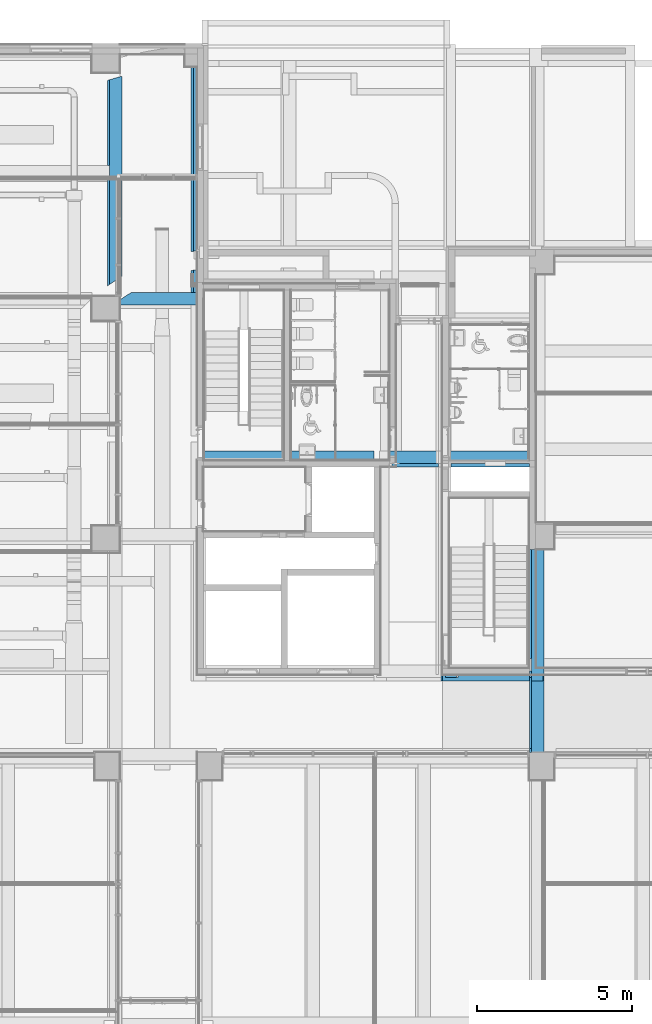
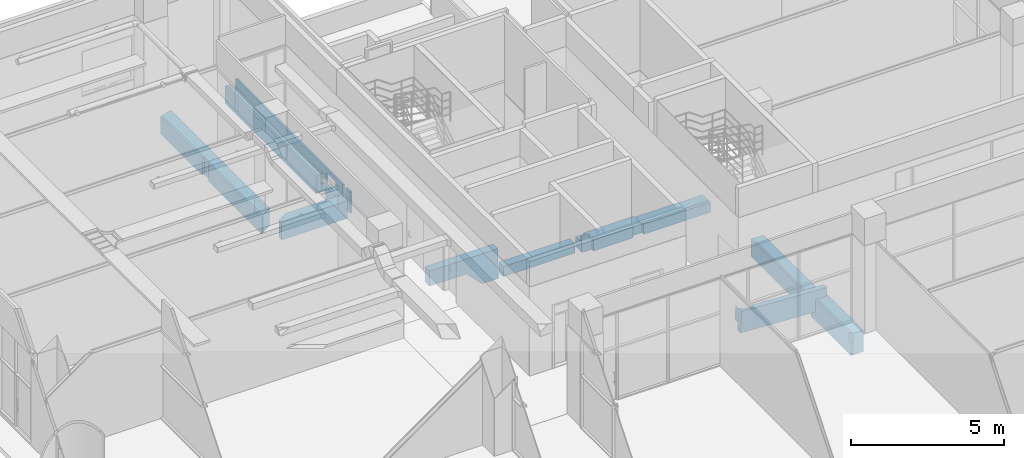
# One storey, part 58 of 100: 10 beams.
"""IFC2X3 building model written with IfcOpenShell, lengths in millimetres."""

from ifc_helpers import new_model, entity, si_unit, converted_unit, derived_unit, direction, frame, origin, place, context, subcontext, project, spatial, faceted_brep, source, transform, mapped, material, material_list, type_object, type_shapes, element, save


model = new_model("IFC2X3")

# Units and contexts
model_context = context("Model", 3, precision=0.01, world=origin(), true_north=direction((6.123031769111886e-17, 1.0)))
body_context = subcontext(model_context, "Body", "Model", "MODEL_VIEW")
ifc_project = project(units=[si_unit("LENGTHUNIT", "METRE", prefix="MILLI"), si_unit("AREAUNIT", "SQUARE_METRE"), si_unit("VOLUMEUNIT", "CUBIC_METRE"), converted_unit("PLANEANGLEUNIT", "DEGREE", entity("IfcRatioMeasure", 0.017453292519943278), si_unit("PLANEANGLEUNIT", "RADIAN"), dimensions=[0, 0, 0, 0, 0, 0, 0]), si_unit("MASSUNIT", "GRAM", prefix="KILO"), derived_unit("MASSDENSITYUNIT", [(si_unit("MASSUNIT", "GRAM", prefix="KILO"), 1), (si_unit("LENGTHUNIT", "METRE"), -3)]), derived_unit("MOMENTOFINERTIAUNIT", [(si_unit("LENGTHUNIT", "METRE"), 4)]), si_unit("TIMEUNIT", "SECOND"), si_unit("FREQUENCYUNIT", "HERTZ"), si_unit("THERMODYNAMICTEMPERATUREUNIT", "DEGREE_CELSIUS"), derived_unit("THERMALTRANSMITTANCEUNIT", [(si_unit("MASSUNIT", "GRAM", prefix="KILO"), 1), (si_unit("THERMODYNAMICTEMPERATUREUNIT", "KELVIN"), -1), (si_unit("TIMEUNIT", "SECOND"), -3)]), derived_unit("VOLUMETRICFLOWRATEUNIT", [(si_unit("LENGTHUNIT", "METRE"), 3), (si_unit("TIMEUNIT", "SECOND"), -1)]), derived_unit("MASSFLOWRATEUNIT", [(si_unit("MASSUNIT", "GRAM", prefix="KILO"), 1), (si_unit("TIMEUNIT", "SECOND"), -1)]), derived_unit("ROTATIONALFREQUENCYUNIT", [(si_unit("TIMEUNIT", "SECOND"), -1)]), si_unit("ELECTRICCURRENTUNIT", "AMPERE"), si_unit("ELECTRICVOLTAGEUNIT", "VOLT"), si_unit("POWERUNIT", "WATT"), si_unit("FORCEUNIT", "NEWTON", prefix="KILO"), si_unit("ILLUMINANCEUNIT", "LUX"), si_unit("LUMINOUSFLUXUNIT", "LUMEN"), si_unit("LUMINOUSINTENSITYUNIT", "CANDELA"), derived_unit("USERDEFINED", [(si_unit("MASSUNIT", "GRAM", prefix="KILO"), -1), (si_unit("LENGTHUNIT", "METRE"), -2), (si_unit("TIMEUNIT", "SECOND"), 3), (si_unit("LUMINOUSFLUXUNIT", "LUMEN"), 1)]), derived_unit("SOUNDPOWERUNIT", [(si_unit("MASSUNIT", "GRAM", prefix="KILO"), 1), (si_unit("LENGTHUNIT", "METRE"), 2), (si_unit("TIMEUNIT", "SECOND"), -3)]), derived_unit("SOUNDPRESSUREUNIT", [(si_unit("MASSUNIT", "GRAM", prefix="KILO"), 1), (si_unit("LENGTHUNIT", "METRE"), -1), (si_unit("TIMEUNIT", "SECOND"), -2)]), derived_unit("LINEARVELOCITYUNIT", [(si_unit("LENGTHUNIT", "METRE"), 1), (si_unit("TIMEUNIT", "SECOND"), -1)]), si_unit("PRESSUREUNIT", "PASCAL"), derived_unit("USERDEFINED", [(si_unit("LENGTHUNIT", "METRE"), -2), (si_unit("MASSUNIT", "GRAM", prefix="KILO"), 1), (si_unit("TIMEUNIT", "SECOND"), -2)]), derived_unit("LINEARFORCEUNIT", [(si_unit("MASSUNIT", "GRAM", prefix="KILO"), 1), (si_unit("LENGTHUNIT", "METRE"), 1), (si_unit("TIMEUNIT", "SECOND"), -2), (si_unit("LENGTHUNIT", "METRE"), -1)]), derived_unit("PLANARFORCEUNIT", [(si_unit("MASSUNIT", "GRAM", prefix="KILO"), 1), (si_unit("LENGTHUNIT", "METRE"), 1), (si_unit("TIMEUNIT", "SECOND"), -2), (si_unit("LENGTHUNIT", "METRE"), -2)])], contexts=[model_context])

# Site, building, storey
site_placement = place(None, frame((-14167.972527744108, -657.2125860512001, 0.0)))
site = spatial("IfcSite", under=ifc_project, at=site_placement, Name="Default", CompositionType="ELEMENT")
building_placement = place(site_placement, origin())
building = spatial("IfcBuilding", under=site, at=building_placement, Name="Sample Building", CompositionType="ELEMENT")
storey_placement = place(building_placement, origin())
storey = spatial("IfcBuildingStorey", under=building, at=storey_placement, Name="지상 1층", CompositionType="ELEMENT", Elevation=0.0)

# Beams
ifc_material_1 = material(Name="KBIMS-콘크리트")
beam_type_1 = type_object("IfcBeamType", Name="BM111-철근콘크리트구조 보:BM110-철근 콘크리트구조 보_400 x 850_B1-1G3", PredefinedType="NOTDEFINED")
beam_1_placement = place(storey_placement, frame((27566.39481352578, 27471.07711517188, -850.0)))
element("IfcBeam", 1, at=beam_1_placement, inside=storey, type_object=beam_type_1, material=ifc_material_1, Name="BM111-철근콘크리트구조 보:BM110-철근 콘크리트구조 보_400 x 850_B1-1G3", ObjectType="BM111-철근콘크리트구조 보:BM110-철근 콘크리트구조 보_400 x 850_B1-1G3", context=body_context, shape_type="Brep", body=[
    faceted_brep([(1.5952722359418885, 0.0, 700.0), (1.5952722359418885, 159.40162857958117, 700.0), (1.5952722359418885, 159.40162857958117, 0.0), (1.5952722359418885, 0.0, 0.0), (2376.8510489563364, 400.0, 0.0), (2301.551598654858, 400.0, 0.0), (367.9442186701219, 400.0, 0.0), (367.9442186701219, 400.0, 700.0), (2301.551598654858, 400.0, 700.0), (2376.8510489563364, 400.0, 700.0), (2499.7310009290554, 400.0, 700.0), (2499.7310009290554, 400.0, 0.0), (2499.7310009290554, 0.0, 0.0), (2299.731000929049, 0.0, 0.0), (39.11508758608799, 186.00523168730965, 0.0), (76.8510855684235, 212.2907055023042, 0.0), (220.91006124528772, 308.43121976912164, 0.0), (2299.731000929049, 0.0, 700.0), (2499.7310009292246, 0.0, 700.0), (2499.7310009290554, 86.13519282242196, 700.0), (220.91006124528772, 308.43121976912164, 700.0), (76.8510855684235, 212.2907055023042, 700.0), (39.11508758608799, 186.00523168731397, 700.0)], [[[0, 1, 2, 3]], [[4, 5, 6, 7, 8, 9, 10, 11]], [[12, 13, 3, 2, 14, 15, 16, 6, 5, 4, 11]], [[17, 0, 3, 13, 12, 18]], [[19, 10, 9, 8, 7, 20, 21, 22, 1, 0, 17, 18]], [[19, 18, 12, 11, 10]], [[1, 22, 14, 2]], [[14, 22, 21, 15]], [[20, 7, 6, 16]], [[20, 16, 15, 21]]]),
])
beam_type_2 = type_object("IfcBeamType", Name="BM111-철근콘크리트구조 보:BM110-철근 콘크리트구조 보_400 x 850_B1-1G4", PredefinedType="NOTDEFINED")
beam_2_placement = place(storey_placement, frame((40843.25459207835, 13057.212617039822, -1350.0), z_axis=(0.0, 0.0, 1.0), x_axis=(0.0, 1.0, 0.0)))
element("IfcBeam", 2, at=beam_2_placement, inside=storey, type_object=beam_type_2, material=ifc_material_1, Name="BM111-철근콘크리트구조 보:BM110-철근 콘크리트구조 보_400 x 850_B1-1G4", ObjectType="BM111-철근콘크리트구조 보:BM110-철근 콘크리트구조 보_400 x 850_B1-1G4", context=body_context, shape_type="Brep", body=[
    faceted_brep([(2499.9996367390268, -400.0, 850.0), (2499.999636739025, 0.0, 850.0), (2413.8644852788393, 0.0, 850.0), (113.86448527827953, 0.0, 850.0), (0.0, 0.0, 850.0), (0.0, -400.0, 850.0), (113.8644852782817, -400.0, 850.0), (2499.9996367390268, -400.0, 700.0), (0.0, -400.0, 0.0), (2499.9999457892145, -400.0, 0.0), (2613.8644439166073, -400.0, 0.0), (3013.864443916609, -400.0, 0.0), (6537.499690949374, -400.0, 0.0), (6537.499690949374, -400.0, 700.0), (3013.864443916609, -400.0, 700.0), (2613.8644439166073, -400.0, 700.0), (0.0, 0.0, 0.0), (2613.864443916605, 0.0, 0.0), (3013.8644439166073, 0.0, 0.0), (6537.499690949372, 0.0, 0.0), (2499.999636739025, 0.0, 700.0), (2613.864443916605, 0.0, 700.0), (3013.8644439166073, 0.0, 700.0), (6537.499690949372, 0.0, 700.0), (0.0, 0.0, 500.0)], [[[0, 1, 2, 3, 4, 5, 6]], [[7, 0, 6, 5, 8, 9, 10, 11, 12, 13, 14, 15]], [[8, 16, 17, 18, 19, 12, 11, 10, 9]], [[1, 20, 21, 22, 23, 19, 18, 17, 16, 24, 4, 3, 2]], [[20, 7, 15, 14, 13, 23, 22, 21]], [[7, 20, 1, 0]], [[5, 4, 24, 16, 8]], [[13, 12, 19, 23]]]),
])
beam_3_placement = place(storey_placement, frame((27241.65062685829, 28134.201418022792, -850.0), z_axis=(0.0, 0.0, 1.0), x_axis=(0.0, 1.0, 0.0)))
element("IfcBeam", 3, at=beam_3_placement, inside=storey, type_object=beam_type_2, material=ifc_material_1, Name="BM111-철근콘크리트구조 보:BM110-철근 콘크리트구조 보_400 x 850_B1-1G4", ObjectType="BM111-철근콘크리트구조 보:BM110-철근 콘크리트구조 보_400 x 850_B1-1G4", context=body_context, shape_type="Brep", body=[
    faceted_brep([(6712.582470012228, -401.59527223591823, 0.0), (6712.582470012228, -401.59527223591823, 700.0), (261.9118935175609, -401.59527223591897, 700.0), (261.9118935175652, -401.59527223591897, 0.0), (6657.138509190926, -201.10389553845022, 0.0), (135.66694160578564, -199.04849143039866, 0.0), (1.5952722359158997, -1.5952722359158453, 0.0), (3436.8756842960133, -1.5952722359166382, 0.0), (3836.8756842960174, -1.5952722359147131, 0.0), (6598.256133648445, -1.5952722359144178, 0.0), (1.5952722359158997, -1.595272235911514, 700.0), (3436.8756842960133, -1.5952722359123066, 700.0), (3836.8756842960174, -1.5952722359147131, 700.0), (6598.256133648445, -1.5952722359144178, 700.0), (6657.138509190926, -201.10389553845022, 700.0), (135.66694160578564, -199.04849143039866, 700.0)], [[[0, 1, 2, 3]], [[4, 0, 3, 5, 6, 7, 8, 9]], [[9, 8, 7, 6, 10, 11, 12, 13]], [[1, 14, 13, 12, 11, 10, 15, 2]], [[15, 5, 3, 2]], [[10, 6, 5, 15]], [[13, 14, 4, 9]], [[4, 14, 1, 0]]]),
])
beam_type_3 = type_object("IfcBeamType", Name="BM111-철근콘크리트구조 보:BM110-철근 콘크리트구조 보_400 x 850_B1-1WG1", PredefinedType="BEAM", material=ifc_material_1)
beam_4_placement = place(storey_placement, frame((37922.43231355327, 15357.21260419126, 1.9188155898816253), z_axis=(0.05354604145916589, 0.0, 0.9985653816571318), x_axis=(-0.9985653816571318, 0.0, 0.05354604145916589)))
element("IfcBeam", 4, at=beam_4_placement, inside=storey, type_object=beam_type_3, material=ifc_material_1, Name="BM111-철근콘크리트구조 보:BM110-철근 콘크리트구조 보_400 x 850_B1-1WG1", ObjectType="BM111-철근콘크리트구조 보:BM110-철근 콘크리트구조 보_400 x 850_B1-1WG1", context=body_context, shape_type="Brep", body=[
    faceted_brep([(-3285.449505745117, 0.0, 0.5210389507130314), (-3285.4495057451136, 0.0, -326.46435189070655), (-3285.4495057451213, -199.9996909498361, -326.46435189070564), (-3285.4495057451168, -199.9996909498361, 0.5210389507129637), (-45.55158480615, 0.0, 0.5210389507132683), (-543.3203189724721, -199.99969094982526, 0.5210389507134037), (-543.3203189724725, -113.86449812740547, 0.5210389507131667), (-145.7126270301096, -113.86449812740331, 0.5210389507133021), (-145.712627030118, -199.9996909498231, 0.521038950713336), (-45.55158480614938, -199.9996909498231, 0.5210389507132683), (-45.56890927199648, -400.0, 0.5219679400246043), (-56.278117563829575, -400.0, -199.1911083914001), (-156.13465572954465, -400.0, -193.8365042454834), (-174.8757702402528, -400.0, -543.3343878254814), (-45.5515848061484, -400.0, -550.2691347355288), (-2895.1625171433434, 0.0, -849.4789610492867), (-68.32498799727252, 0.0, -849.4789610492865), (-45.551584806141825, 0.0, -849.4789610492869), (-45.551584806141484, -113.86449812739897, -849.4789610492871), (-45.55158480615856, -200.0, -849.4789610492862), (-91.13110926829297, -200.0, -849.4789610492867), (-166.53874074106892, -313.86449812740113, -849.4789610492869), (-291.41844515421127, -313.86449812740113, -849.4789610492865), (-366.8260766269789, -313.86449812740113, -849.4789610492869), (-366.8260766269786, -400.0, -849.4789610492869), (-539.2653078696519, -400.0, -849.4789610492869), (-539.2653078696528, -113.86449812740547, -849.4789610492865), (-2895.162517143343, -113.86449812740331, -849.4789610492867), (-2868.316354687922, 0.0, -348.83227031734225), (-45.5515848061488, -299.99956419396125, 0.8855481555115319), (-45.55158480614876, -400.0, 0.5210389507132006), (-45.551584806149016, -200.0, -550.2691347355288), (-2868.3163546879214, -113.86449812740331, -348.8322703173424), (-2943.507779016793, -113.86449812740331, -344.80028282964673), (-2968.1815368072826, -113.86449812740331, -343.47720265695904), (-2968.1815368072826, -199.99969094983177, -343.4772026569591), (-3068.038074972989, -199.99969094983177, -338.12259851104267), (-56.27811756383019, -199.9996909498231, -199.19110839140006), (-156.13465572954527, -199.99969094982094, -193.83650424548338), (-2959.1087014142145, -199.99969094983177, -174.28039389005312), (-2951.061291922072, -199.99969094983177, -24.2064703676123), (-2950.9671760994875, -199.99969094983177, -22.45133030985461), (-45.56890927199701, -199.9996909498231, 0.5219679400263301), (-2950.9671760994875, -113.86449812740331, -22.451330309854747), (-191.11402362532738, -113.86449812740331, -846.1571035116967), (-366.7378047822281, -400.0, -847.8328037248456), (-366.73780478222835, -313.86449812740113, -847.8328037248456), (-191.11402362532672, -313.86449812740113, -846.1571035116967), (-153.80571126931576, -113.86449812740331, -150.40466035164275), (-145.75830177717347, -113.86449812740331, -0.3307368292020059), (-2951.061291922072, -113.86449812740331, -24.206470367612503), (-2959.1087014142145, -113.86449812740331, -174.28039389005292), (-190.93958267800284, -313.86449812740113, -842.9040023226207), (-174.87577024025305, -313.864498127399, -543.3343878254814), (-153.80571126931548, -199.9996909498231, -150.40466035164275), (-145.7583017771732, -199.9996909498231, -0.3307368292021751), (-150.19333193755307, -313.86449812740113, -544.6579334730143), (-75.00190760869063, -200.0, -548.6899209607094), (-91.06572004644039, -200.0, -848.2595354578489), (-166.25714437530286, -313.86449812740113, -844.2275479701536)], [[[0, 1, 2, 3]], [[4, 0, 3, 5, 6, 7, 8, 9]], [[10, 11, 12, 13, 14]], [[15, 16, 17, 18, 19, 20, 21, 22, 23, 24, 25, 26, 27]], [[0, 4, 17, 16, 15, 28, 1]], [[17, 4, 9, 29, 30, 14, 31, 19, 18]], [[1, 28, 32, 33, 34, 35, 36, 2]], [[28, 15, 27, 32]], [[11, 37, 38, 12]], [[35, 39, 40, 41, 5, 3, 2, 36]], [[42, 37, 11, 30, 29]], [[43, 6, 5, 41]], [[44, 26, 25, 45, 46, 47]], [[26, 44, 48, 49, 7, 6, 43, 50, 51, 34, 33, 32, 27]], [[7, 49, 48, 44, 47, 52, 53, 13, 12, 38, 54, 55, 8]], [[14, 13, 53, 56, 57, 31]], [[45, 24, 23, 46]], [[20, 19, 31, 57, 58]], [[45, 25, 24]], [[57, 56, 59, 21, 20, 58]], [[56, 53, 52, 47, 46, 23, 22, 21, 59]], [[37, 9, 8, 55, 54, 38]], [[43, 41, 40, 39, 35, 34, 51, 50]]]),
])
ifc_material_list_1 = material_list([ifc_material_1, ifc_material_1, ifc_material_1])
ifc_material_list_2 = material_list([ifc_material_1, ifc_material_1, ifc_material_1])
beam_type_4 = type_object("IfcBeamType", Name="BM111-철근콘크리트구조 보:BM110-철근 콘크리트구조 보_400 x 850_B1-1G2", PredefinedType="BEAM", material=ifc_material_list_2)
shared_shape_1 = source(origin(), body_context, "Body", "Brep", [
    faceted_brep([(401.59527223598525, 7486.0, 0.0), (1.5952722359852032, 7486.0, 0.0), (1.5952722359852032, 7486.0, 700.0), (124.47522420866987, 7486.0, 700.0), (124.47522420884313, 7486.0, 100.0), (326.2958219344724, 7486.0, 100.0), (401.59527223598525, 7486.0, 100.0), (401.59527223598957, 7486.0, 850.0), (401.59527223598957, 7486.0, 300.0), (326.2958219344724, 7486.0, 300.0), (324.4752242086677, 7486.0, 300.0), (324.4752242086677, 7486.0, 850.0), (326.29582193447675, 7486.0, 850.0), (324.4752242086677, 963.1918762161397, 850.0), (324.4752242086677, 486.13519282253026, 850.0), (401.5952722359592, 486.13519282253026, 850.0), (401.5952722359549, 486.13519282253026, 300.0), (401.5952722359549, 486.13519282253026, 0.0), (401.5952722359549, 500.0, 0.0), (401.5952722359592, 900.0, 0.0), (401.5952722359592, 969.7113335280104, 0.0), (401.5952722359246, 969.7113335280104, 376.3103335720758), (401.5952722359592, 969.7113335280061, 700.0), (401.5952722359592, 1571.3309407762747, 700.0), (401.5952722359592, 1571.3309407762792, 350.00046365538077), (401.5952722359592, 1571.3309407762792, 0.0), (401.5952722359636, 1700.0, 0.0), (401.5952722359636, 1700.0, 100.0), (401.5952722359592, 1586.1351928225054, 100.0), (401.5952722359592, 1586.1351928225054, 300.0), (1.5952722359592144, 1530.1260918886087, 0.0), (295.15729606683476, 1562.965300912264, 0.0), (188.89752082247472, 1552.7396894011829, 0.0), (151.23679175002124, 1548.6643758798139, 0.0), (113.60866858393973, 1544.35590042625, 0.0), (57.56890802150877, 1537.5002318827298, 0.0), (324.4752242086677, 900.0, 0.0), (324.4752242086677, 963.1918762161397, 0.0), (363.02378048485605, 966.5872591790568, 0.0), (324.4752242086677, 486.13519282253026, 0.0), (324.4752242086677, 500.0, 0.0), (1.595272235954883, 1530.1260918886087, 349.99952930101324), (1.595272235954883, 1530.1260918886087, 700.0), (124.4752242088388, 1586.1351928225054, 100.0), (324.4752242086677, 1586.1351928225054, 300.0), (124.4752242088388, 1545.6245477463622, 700.0), (124.4752242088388, 1545.6245477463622, 300.0), (124.4752242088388, 1586.1351928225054, 300.0), (324.4752242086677, 486.13519282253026, 250.0), (324.4752242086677, 1565.4566938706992, 700.0), (363.02551123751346, 1568.5160141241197, 700.0), (363.02691069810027, 966.5875237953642, 700.0), (324.4752242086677, 963.1918762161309, 700.0), (324.4752242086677, 1565.4566938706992, 300.0), (224.39354075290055, 1556.3643688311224, 300.0), (62.995912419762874, 1538.187194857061, 700.0), (364.08760733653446, 966.6770873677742, 283.33473324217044), (324.47522420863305, 963.1918762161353, 300.0)], [[[0, 1, 2, 3, 4, 5, 6]], [[7, 8, 9, 10, 11, 12]], [[12, 11, 13, 14, 15, 7]], [[7, 15, 16, 17, 18, 19, 20, 21, 22, 23, 24, 25, 26, 0, 6, 27, 28, 29, 8]], [[30, 1, 0, 26, 25, 31, 32, 33, 34, 35]], [[36, 37, 38, 20, 19, 18, 17, 39, 40]], [[2, 1, 30, 41, 42]], [[43, 28, 27, 6, 5, 4]], [[9, 8, 29, 44, 10]], [[43, 4, 3, 45, 46, 47]], [[44, 29, 28, 43, 47]], [[48, 39, 17, 16, 15, 14]], [[49, 50, 23, 22, 51, 52]], [[31, 25, 53]], [[46, 32, 54]], [[31, 54, 32]], [[54, 31, 53]], [[50, 24, 23]], [[49, 53, 25, 24]], [[24, 50, 49]], [[34, 33, 46]], [[46, 35, 34]], [[30, 35, 41]], [[55, 46, 45]], [[46, 41, 35]], [[41, 46, 55]], [[55, 42, 41]], [[33, 32, 46]], [[2, 42, 55, 45, 3]], [[56, 37, 57]], [[51, 57, 52]], [[20, 56, 21]], [[51, 56, 57]], [[38, 37, 56]], [[51, 22, 21]], [[20, 38, 56]], [[51, 21, 56]], [[54, 53, 44, 47, 46]], [[48, 14, 13, 11, 10, 44, 53, 49, 52, 57, 37, 36, 40, 39]]]),
    faceted_brep([(401.5952722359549, 0.0, 0.0), (401.5952722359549, 0.0, 850.0), (326.2958585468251, 0.0, 850.0), (324.4752242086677, 0.0, 850.0), (324.4752242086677, 0.0, 0.0), (326.2958585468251, 0.0, 0.0), (401.5952722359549, 286.1351928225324, 0.0), (324.4752242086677, 286.1351928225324, 0.0), (324.4752242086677, 286.1351928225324, 250.0), (324.4752242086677, 286.1351928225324, 850.0), (401.5952722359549, 286.1351928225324, 850.0)], [[[0, 1, 2, 3, 4, 5]], [[6, 7, 8, 9, 10]], [[0, 5, 4, 7, 6]], [[3, 2, 1, 10, 9]], [[1, 0, 6, 10]], [[9, 8, 7, 4, 3]]]),
    faceted_brep([(124.47522420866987, 200.0, 0.0), (124.4752242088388, 200.0, 700.0), (1.5952722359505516, 200.0, 700.0), (1.5952722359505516, 200.0, 0.0), (124.47522420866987, 526.1351799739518, 700.0), (124.47522420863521, 941.1705953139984, 700.0), (62.98668327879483, 932.906653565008, 700.0), (1.595272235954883, 923.9496423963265, 700.0), (124.47522420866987, 941.1705953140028, 300.0), (124.47522420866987, 386.1355018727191, 0.0), (124.47522420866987, 500.0, 0.0), (124.47522420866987, 900.0, 0.0), (124.47522420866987, 941.1705953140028, 0.0), (62.98668327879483, 932.906653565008, 0.0), (1.5952722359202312, 923.949642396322, 0.0), (1.595272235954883, 500.0, 0.0), (1.595272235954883, 900.0, 0.0)], [[[0, 1, 2, 3]], [[2, 1, 4, 5, 6, 7]], [[8, 5, 4, 1, 0, 9, 10, 11, 12]], [[7, 6, 13, 14]], [[8, 12, 13, 6, 5]], [[12, 11, 10, 9, 0, 3, 15, 16, 14, 13]], [[7, 14, 16, 15, 3, 2]]]),
])
type_shapes(beam_type_4, [shared_shape_1])
beam_5_placement = place(storey_placement, frame((29941.65059024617, 27671.077115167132, -850.0)))
element("IfcBeam", 5, at=beam_5_placement, inside=storey, type_object=beam_type_4, material=ifc_material_list_1, Name="BM111-철근콘크리트구조 보:BM110-철근 콘크리트구조 보_400 x 850_B1-1G2", ObjectType="BM111-철근콘크리트구조 보:BM110-철근 콘크리트구조 보_400 x 850_B1-1G2", context=body_context, shape_type="MappedRepresentation", body=[
    mapped(shared_shape_1, transform((0.0, 0.0, 0.0), scale=1.0)),
])
ifc_material_2 = material(Name="Concrete Beam (G40)")
ifc_material_list_3 = material_list([ifc_material_2, ifc_material_2, ifc_material_2])
ifc_material_list_4 = material_list([ifc_material_2, ifc_material_2, ifc_material_2])
beam_type_5 = type_object("IfcBeamType", Name="BM114-꺾임 보:BM114-꺾임 보_400x600_1WG2", PredefinedType="BEAM", material=ifc_material_list_4)
shared_shape_2 = source(origin(), body_context, "Body", "Brep", [
    faceted_brep([(7901.837983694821, 400.0, 450.0), (7901.837983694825, 400.0, 400.0), (7977.120084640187, 400.0, 400.0), (10501.837983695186, 400.0, 400.0), (10501.837983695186, 400.0, 0.0), (7977.120084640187, 400.0, 0.0), (7577.1200846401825, 400.0, 0.0), (7501.820634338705, 400.0, 0.0), (6377.120084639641, 400.0, 0.0), (5701.846676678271, 400.0, 0.0), (5701.846676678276, 400.0, 400.0), (6001.837983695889, 400.0, 400.0), (6001.837983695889, 400.0, 450.0), (6377.120084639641, 400.0, 450.0), (7501.820634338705, 400.0, 450.0), (7577.1200846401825, 400.0, 450.0), (7901.837983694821, 0.0, 400.0), (7901.837983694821, 0.0, 450.0), (7577.120084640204, 0.0, 450.0), (6301.820634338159, 0.0, 450.0), (6077.128777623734, 0.0, 450.0), (6001.837983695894, 0.0, 450.0), (6001.837983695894, 0.0, 600.0), (5977.120084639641, 0.0, 600.0), (5701.846676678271, 0.0, 600.0), (5701.846676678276, 0.0, 0.0), (5977.120084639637, 0.0, 0.0), (6301.820634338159, 0.0, 0.0), (6377.120084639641, 0.0, 0.0), (7577.1200846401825, 0.0, 0.0), (7977.120084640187, 0.0, 0.0), (10501.837983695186, 0.0, 0.0), (10501.837983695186, 0.0, 400.0), (7977.120084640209, 0.0, 400.0), (5701.846676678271, 86.13519282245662, 0.0), (6001.837983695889, 86.13519282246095, 400.0), (6001.837983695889, 86.13519282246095, 450.0), (5701.846676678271, 86.13519282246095, 400.0), (5701.846676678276, 86.13519282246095, 600.0), (6001.837983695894, 86.13519282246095, 600.0)], [[[0, 1, 2, 3, 4, 5, 6, 7, 8, 9, 10, 11, 12, 13, 14, 15]], [[16, 17, 18, 19, 20, 21, 22, 23, 24, 25, 26, 27, 28, 29, 30, 31, 32, 33]], [[25, 34, 9, 8, 7, 6, 5, 4, 31, 30, 29, 28, 27, 26]], [[11, 35, 36, 12]], [[36, 35, 37, 38, 39]], [[16, 1, 0, 17]], [[1, 16, 33, 32, 3, 2]], [[36, 21, 20, 19, 18, 17, 0, 15, 14, 13, 12]], [[21, 36, 39, 22]], [[25, 24, 38, 37, 10, 9, 34]], [[22, 39, 38, 24, 23]], [[35, 11, 10, 37]], [[4, 3, 32, 31]]]),
    faceted_brep([(1389.1379836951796, 400.0, 600.0), (1989.137983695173, 400.0, 0.0), (1989.137983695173, 86.13519282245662, 0.0), (1389.1379836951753, 86.13519282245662, 600.0), (1.8206343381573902, 86.13519282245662, 600.0), (0.0, 86.13519282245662, 600.0), (0.0, 400.0, 600.0), (1.8206343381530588, 400.0, 600.0), (0.0, 400.0, 1200.0), (0.0, 86.13519282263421, 1200.0), (2589.1379836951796, 86.13519282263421, 1200.0), (2589.137983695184, 400.0, 1200.0), (1.8206343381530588, 400.0, 1200.0), (2589.137983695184, 400.0, 600.0), (2589.1379836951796, 86.13519282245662, 600.0), (2601.8466766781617, 86.13519282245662, 600.0), (2601.8466766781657, 400.0, 600.0), (2601.8466766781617, 86.13519282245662, 0.0), (2601.8466766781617, 400.0, 0.0)], [[[0, 1, 2, 3]], [[0, 3, 4, 5, 6, 7]], [[8, 9, 10, 11, 12]], [[13, 11, 10, 14]], [[14, 15, 16, 13]], [[9, 8, 6, 5]], [[10, 9, 5, 4, 3, 2, 17, 15, 14]], [[18, 17, 2, 1]], [[17, 18, 16, 15]], [[1, 0, 7, 6, 8, 12, 11, 13, 16, 18]]]),
    faceted_brep([(5501.8466766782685, 86.13519282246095, 400.0), (5501.8466766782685, 400.0, 400.0), (2801.8466766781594, 400.0, 400.0), (2801.846676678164, 86.13519282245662, 400.0), (5501.8466766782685, 86.13519282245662, 0.0), (5501.8466766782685, 400.0, 0.0), (2801.8466766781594, 400.0, 0.0), (2801.8466766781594, 86.13519282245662, 0.0)], [[[0, 1, 2, 3]], [[1, 0, 4, 5]], [[3, 2, 6, 7]], [[0, 3, 7, 4]], [[7, 6, 5, 4]], [[2, 1, 5, 6]]]),
])
type_shapes(beam_type_5, [shared_shape_2])
beam_6_placement = place(storey_placement, frame((30266.125814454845, 22371.077118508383, -1200.0)))
element("IfcBeam", 6, at=beam_6_placement, inside=storey, type_object=beam_type_5, material=ifc_material_list_3, Name="BM114-꺾임 보:BM114-꺾임 보_400x600_1WG2", ObjectType="BM114-꺾임 보:BM114-꺾임 보_400x600_1WG2", context=body_context, shape_type="MappedRepresentation", body=[
    mapped(shared_shape_2, transform((0.0, 0.0, 0.0), scale=1.0)),
])
ifc_material_list_5 = material_list([ifc_material_1, ifc_material_1])
ifc_material_list_6 = material_list([ifc_material_1, ifc_material_1])
beam_type_6 = type_object("IfcBeamType", Name="BM111-철근콘크리트구조 보:BM110-철근 콘크리트구조 보_400 x 850_B1-1G4", PredefinedType="BEAM", material=ifc_material_list_6)
shared_shape_3 = source(origin(), body_context, "Body", "Brep", [
    faceted_brep([(0.0, 113.8644852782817, 850.0), (75.29945030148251, 113.8644852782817, 850.0), (75.29945030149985, 2413.8644852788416, 850.0), (0.0, 2413.8644852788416, 850.0), (0.0, 2299.999987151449, 850.0), (0.0, 0.0, 0.0), (75.29945030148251, 0.0, 0.0), (75.29945030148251, 0.0, 500.0), (0.0, 0.0, 500.0), (75.29945030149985, 2613.8644439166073, 0.0), (0.0, 2613.8644439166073, 0.0), (0.0, 2613.8644439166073, 326.1116184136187), (75.29945030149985, 2613.8644439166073, 321.35293986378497), (0.0, 113.8644852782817, 500.0), (0.0, 2413.8644852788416, 348.63404046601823), (0.0, 2413.8644852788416, 326.1116184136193), (75.29945030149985, 2413.8644852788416, 321.35293986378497), (75.29945030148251, 113.8644852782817, 500.0)], [[[0, 1, 2, 3, 4]], [[5, 6, 7, 8]], [[9, 10, 11, 12]], [[5, 10, 9, 6]], [[10, 5, 8, 13, 0, 4, 3, 14, 15, 11]], [[6, 9, 12, 16, 2, 1, 17, 7]], [[13, 17, 1, 0]], [[17, 13, 8, 7]], [[15, 16, 12, 11]], [[16, 15, 14, 3, 2]]]),
    faceted_brep([(0.0, 3013.864443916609, 0.0), (0.0, 6537.499690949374, 0.0), (75.29945030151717, 6537.499690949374, 0.0), (75.29945030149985, 3013.864443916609, 0.0), (0.0, 6537.499690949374, 700.0), (0.0, 3013.864443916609, 700.0), (75.29945030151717, 6537.499690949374, 700.0), (75.29945030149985, 3013.864443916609, 700.0)], [[[0, 1, 2, 3]], [[4, 1, 0, 5]], [[1, 4, 6, 2]], [[4, 5, 7, 6]], [[5, 0, 3, 7]], [[3, 2, 6, 7]]]),
])
type_shapes(beam_type_6, [shared_shape_3])
beam_7_placement = place(storey_placement, frame((40767.95514177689, 13057.212617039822, -1350.0)))
element("IfcBeam", 7, at=beam_7_placement, inside=storey, type_object=beam_type_6, material=ifc_material_list_5, Name="BM111-철근콘크리트구조 보:BM110-철근 콘크리트구조 보_400 x 850_B1-1G4", ObjectType="BM111-철근콘크리트구조 보:BM110-철근 콘크리트구조 보_400 x 850_B1-1G4", context=body_context, shape_type="MappedRepresentation", body=[
    mapped(shared_shape_3, transform((0.0, 0.0, 0.0), scale=1.0)),
])
ifc_material_list_7 = material_list([ifc_material_1, ifc_material_1])
ifc_material_list_8 = material_list([ifc_material_1, ifc_material_1])
beam_type_7 = type_object("IfcBeamType", Name="BM111-철근콘크리트구조 보:BM110-철근 콘크리트구조 보_400 x 850_B1-1G4", PredefinedType="BEAM", material=ifc_material_list_8)
shared_shape_4 = source(origin(), body_context, "Body", "Brep", [
    faceted_brep([(39.22611561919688, 6640.893311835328, 0.0), (76.89472253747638, 6652.430653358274, 0.0), (76.89472253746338, 3891.050204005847, 0.0), (1.5952722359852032, 3891.050204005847, 0.0), (1.5952722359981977, 6629.233388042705, 0.0), (1.5952722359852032, 3891.050204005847, 700.0), (1.5952722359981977, 6629.233388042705, 700.0), (1.5952722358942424, 6629.233388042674, 219.89063721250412), (76.89472253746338, 3891.050204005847, 700.0), (76.89472253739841, 6652.430653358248, 700.0), (39.226115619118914, 6640.893311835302, 700.0), (76.89472253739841, 6652.430653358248, 480.1093627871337), (41.63027429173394, 6641.63367983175, 311.43665401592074)], [[[0, 1, 2, 3, 4]], [[5, 6, 7, 4, 3]], [[8, 9, 10, 6, 5]], [[2, 8, 5, 3]], [[8, 2, 1, 11, 9]], [[11, 10, 9]], [[12, 7, 6]], [[10, 11, 12]], [[6, 10, 12]], [[7, 0, 4]], [[12, 0, 7]], [[1, 12, 11]], [[1, 0, 12]]]),
    faceted_brep([(76.89472253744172, 55.76979194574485, 0.0), (76.89472253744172, 55.76979194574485, 359.11145469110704), (39.14429880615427, 28.827310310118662, 0.0), (39.08126552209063, 28.781960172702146, 369.28831167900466), (39.14429880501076, 28.827310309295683, 700.0), (1.5952722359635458, 1.5952722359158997, 700.0), (1.5952722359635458, 1.5952722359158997, 340.88854530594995), (76.89472253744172, 55.76979194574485, 700.0), (1.5952722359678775, 1.5952722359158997, 0.0), (76.89472253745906, 3491.0502040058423, 700.0), (76.89472253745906, 3491.0502040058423, 0.0), (1.5952722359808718, 3491.0502040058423, 0.0), (1.5952722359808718, 3491.0502040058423, 700.0), (1.5952722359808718, 3377.185705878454, 0.0), (1.5952722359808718, 3377.185705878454, 700.0)], [[[0, 1, 2]], [[3, 4, 5]], [[2, 3, 6]], [[3, 7, 4]], [[6, 3, 5]], [[6, 8, 2]], [[1, 3, 2]], [[3, 1, 7]], [[9, 10, 11, 12]], [[11, 10, 0, 2, 8, 13]], [[12, 11, 13, 8, 6, 5, 14]], [[9, 12, 14, 5, 4, 7]], [[7, 1, 0, 10, 9]]]),
])
type_shapes(beam_type_7, [shared_shape_4])
beam_8_placement = place(storey_placement, frame((27166.35117655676, 28080.026898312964, -850.0)))
element("IfcBeam", 8, at=beam_8_placement, inside=storey, type_object=beam_type_7, material=ifc_material_list_7, Name="BM111-철근콘크리트구조 보:BM110-철근 콘크리트구조 보_400 x 850_B1-1G4", ObjectType="BM111-철근콘크리트구조 보:BM110-철근 콘크리트구조 보_400 x 850_B1-1G4", context=body_context, shape_type="MappedRepresentation", body=[
    mapped(shared_shape_4, transform((0.0, 0.0, 0.0), scale=1.0)),
])
ifc_material_list_9 = material_list([ifc_material_1, ifc_material_1])
ifc_material_list_10 = material_list([ifc_material_1, ifc_material_1])
beam_type_8 = type_object("IfcBeamType", Name="BM111-철근콘크리트구조 보:BM110-철근 콘크리트구조 보_400 x 850_B1-1G2", PredefinedType="BEAM", material=ifc_material_list_10)
shared_shape_5 = source(origin(), body_context, "Body", "Brep", [
    faceted_brep([(1.5952722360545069, 7286.135501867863, 0.0), (76.89472253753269, 7286.135501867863, 0.0), (76.89472253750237, 1330.126091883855, 0.0), (39.229143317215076, 1324.866821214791, 0.0), (1.5952722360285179, 1319.372554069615, 0.0), (1.5952722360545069, 7286.135501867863, 700.0), (1.5952722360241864, 1319.3725540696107, 359.1114545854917), (1.5952722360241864, 1319.372554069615, 700.0), (76.89472253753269, 7286.135501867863, 700.0), (39.22883167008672, 1324.8667767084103, 700.0), (39.55739703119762, 1324.9136900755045, 420.2662712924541), (76.89472253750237, 1330.126091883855, 700.0), (76.89472253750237, 1330.126091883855, 340.88854541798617)], [[[0, 1, 2, 3, 4]], [[5, 0, 4, 6, 7]], [[1, 0, 5, 8]], [[9, 10, 11]], [[2, 12, 3]], [[6, 3, 10]], [[6, 10, 7]], [[3, 6, 4]], [[10, 9, 7]], [[12, 10, 3]], [[11, 10, 12]], [[5, 7, 9, 11, 8]], [[1, 8, 11, 12, 2]]]),
    faceted_brep([(76.89472253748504, 723.9496423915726, 323.68966643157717), (39.2250179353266, 718.1028440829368, 700.0), (76.89472253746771, 723.9496423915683, 700.0), (1.5952722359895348, 711.9948534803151, 0.0), (38.29662939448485, 717.9553688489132, 281.0973047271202), (39.226220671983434, 718.1030350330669, 0.0), (1.5952722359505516, 711.9948534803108, 376.31033356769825), (1.5952722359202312, 711.9948534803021, 700.0), (76.89472253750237, 723.949642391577, 0.0), (76.89472253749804, 0.0, 700.0), (76.89472253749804, 0.0, 0.0), (76.89472253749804, 300.0, 0.0), (76.89472253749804, 586.1355018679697, 0.0), (1.5952722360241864, 586.1355018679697, 0.0), (1.595272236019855, 0.0, 0.0), (1.5952722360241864, 186.1355018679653, 0.0), (1.595272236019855, 0.0, 700.0)], [[[0, 1, 2]], [[3, 4, 5]], [[1, 0, 4]], [[6, 7, 1]], [[4, 3, 6]], [[8, 4, 0]], [[1, 4, 6]], [[8, 5, 4]], [[9, 10, 11, 12, 8, 0, 2]], [[13, 3, 5, 8, 12, 11, 10, 14, 15]], [[1, 7, 16, 9, 2]], [[13, 15, 14, 16, 7, 6, 3]], [[10, 9, 16, 14]]]),
])
type_shapes(beam_type_8, [shared_shape_5])
beam_9_placement = place(storey_placement, frame((29866.35113994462, 27871.077115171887, -850.0)))
element("IfcBeam", 9, at=beam_9_placement, inside=storey, type_object=beam_type_8, material=ifc_material_list_9, Name="BM111-철근콘크리트구조 보:BM110-철근 콘크리트구조 보_400 x 850_B1-1G2", ObjectType="BM111-철근콘크리트구조 보:BM110-철근 콘크리트구조 보_400 x 850_B1-1G2", context=body_context, shape_type="MappedRepresentation", body=[
    mapped(shared_shape_5, transform((0.0, 0.0, 0.0), scale=1.0)),
])
ifc_material_list_11 = material_list([ifc_material_2, ifc_material_2])
ifc_material_list_12 = material_list([ifc_material_2, ifc_material_2])
beam_type_9 = type_object("IfcBeamType", Name="BM114-꺾임 보:BM114-꺾임 보_400x600_1WG2", PredefinedType="BEAM", material=ifc_material_list_12)
shared_shape_6 = source(origin(), body_context, "Body", "Brep", [
    faceted_brep([(1899.991307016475, 0.0, 400.0), (1899.991307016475, 0.0, 0.0), (4424.709206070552, 0.0, 0.0), (4424.709206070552, 0.0, 400.0), (1899.991307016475, 113.86449812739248, 0.0), (4424.709206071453, 113.86449812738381, 0.0), (1899.991307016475, 113.86449812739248, 400.0), (4424.709206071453, 113.86449812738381, 400.0), (4424.70920607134, 99.99967810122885, 400.0)], [[[0, 1, 2, 3]], [[1, 4, 5, 2]], [[1, 0, 6, 4]], [[3, 2, 5, 7, 8]], [[0, 3, 8, 7, 6]], [[4, 6, 7, 5]]]),
    faceted_brep([(224.69185671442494, 113.86449812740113, 0.0), (224.69185671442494, 99.99969094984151, 0.0), (224.69185671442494, 99.99969094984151, 450.0), (224.69185671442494, 113.86449812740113, 450.0), (1499.9913070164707, 0.0, 450.0), (1499.9913070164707, 0.0, 448.79360427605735), (1499.9913070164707, 0.0, 0.0), (1499.9913070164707, 113.86449812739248, 0.0), (1499.9913070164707, 113.8644981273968, 450.0), (0.0, 0.0, 450.0), (0.0, 0.0, 0.0), (1424.6918567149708, 0.0, 0.0), (0.0, 99.99969094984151, 0.0), (0.0, 99.99969094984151, 450.0)], [[[0, 1, 2, 3]], [[4, 5, 6, 7, 8]], [[6, 5, 4, 9, 10, 11]], [[1, 0, 7, 6, 11, 10, 12]], [[3, 2, 13, 9, 4, 8]], [[0, 3, 8, 7]], [[10, 9, 13, 12]], [[2, 1, 12, 13]]]),
])
type_shapes(beam_type_9, [shared_shape_6])
beam_10_placement = place(storey_placement, frame((36343.25459207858, 22257.212620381, -1200.0)))
element("IfcBeam", 10, at=beam_10_placement, inside=storey, type_object=beam_type_9, material=ifc_material_list_11, Name="BM114-꺾임 보:BM114-꺾임 보_400x600_1WG2", ObjectType="BM114-꺾임 보:BM114-꺾임 보_400x600_1WG2", context=body_context, shape_type="MappedRepresentation", body=[
    mapped(shared_shape_6, transform((0.0, 0.0, 0.0), scale=1.0)),
])

save(model, "model.ifc")
